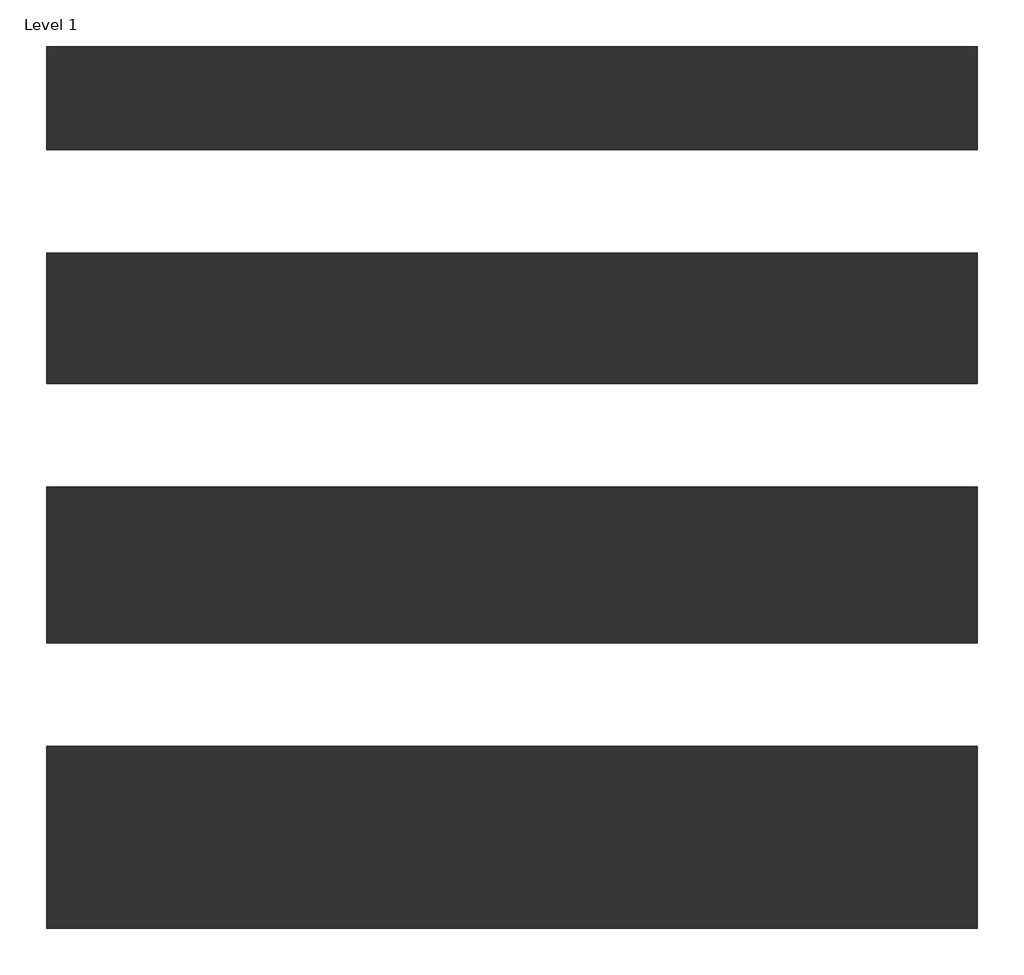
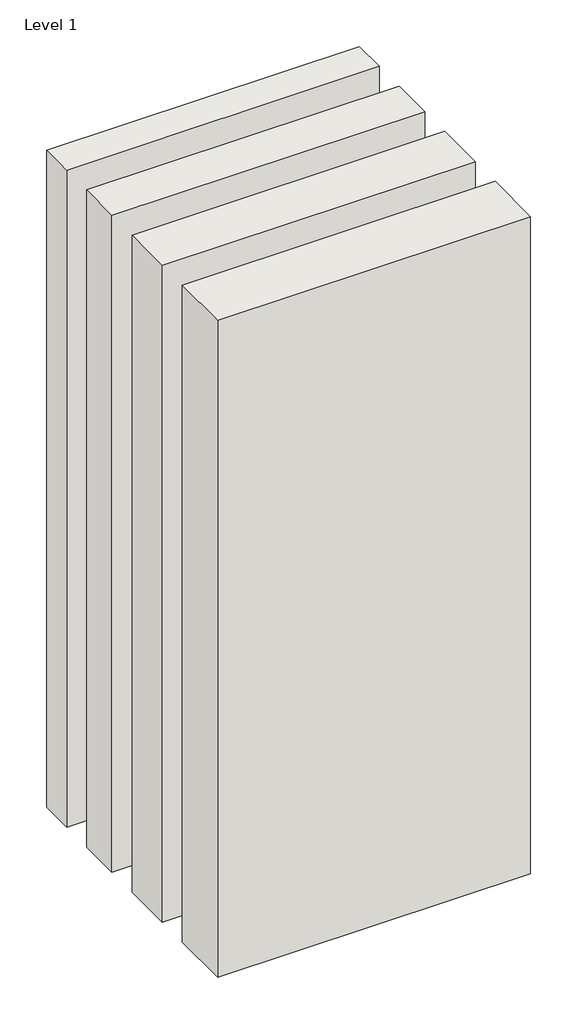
# One storey: 4 walls.
"""IFC4 building model written with IfcOpenShell, lengths in millimetres."""

from ifc_helpers import new_model, si_unit, origin, origin_with_axes, place, context, project, spatial, polyline, outline, extrude, element, save

model = new_model("IFC4")

# Units and contexts
model_context = context("Model", 3, world=origin())
ifc_project = project(units=[si_unit("LENGTHUNIT", "METRE", prefix="MILLI")], contexts=[model_context])

# Site, building, storey
site = spatial("IfcSite", under=ifc_project)
building = spatial("IfcBuilding", under=site)
storey = spatial("IfcBuildingStorey", under=building, Name="Level 1", Elevation=0.0)

# Walls
placement = place(None, origin())
element("IfcWall", 1, ObjectType="Interior-Steel Frame-Double Stud ECO8-CSR3240-200mm", at=placement, inside=storey, context=model_context, shape_type="SweptSolid", body=[
    extrude(outline(polyline([(-275.1320285, -3405.8424634), (1524.8679715, -3405.8424634), (1524.8679715, -3605.8424634), (-275.1320285, -3605.8424634), (-275.1320285, -3405.8424634)])), origin_with_axes(), (0.0, 0.0, 1.0), 4000.0),
])
element("IfcWall", 2, ObjectType="Interior-Steel Frame-Double Stud ECO8-CSR3240-252mm", at=placement, inside=storey, context=model_context, shape_type="SweptSolid", body=[
    extrude(outline(polyline([(-275.1320285, -3805.8424634), (1524.8679715, -3805.8424634), (1524.8679715, -4057.8424634), (-275.1320285, -4057.8424634), (-275.1320285, -3805.8424634)])), origin_with_axes(), (0.0, 0.0, 1.0), 4000.0),
])
element("IfcWall", 3, ObjectType="Interior-Steel Frame-Double Stud ECO8-CSR3240-302mm", at=placement, inside=storey, context=model_context, shape_type="SweptSolid", body=[
    extrude(outline(polyline([(-275.1320285, -4257.8424634), (1524.8679715, -4257.8424634), (1524.8679715, -4559.8424634), (-275.1320285, -4559.8424634), (-275.1320285, -4257.8424634)])), origin_with_axes(), (0.0, 0.0, 1.0), 4000.0),
])
element("IfcWall", 4, ObjectType="Interior-Steel Frame-Double Stud ECO8-CSR3240-352mm", at=placement, inside=storey, context=model_context, shape_type="SweptSolid", body=[
    extrude(outline(polyline([(-275.1320285, -4759.8424634), (1524.8679715, -4759.8424634), (1524.8679715, -5111.8424634), (-275.1320285, -5111.8424634), (-275.1320285, -4759.8424634)])), origin_with_axes(), (0.0, 0.0, 1.0), 4000.0),
])

save(model, "model.ifc")
